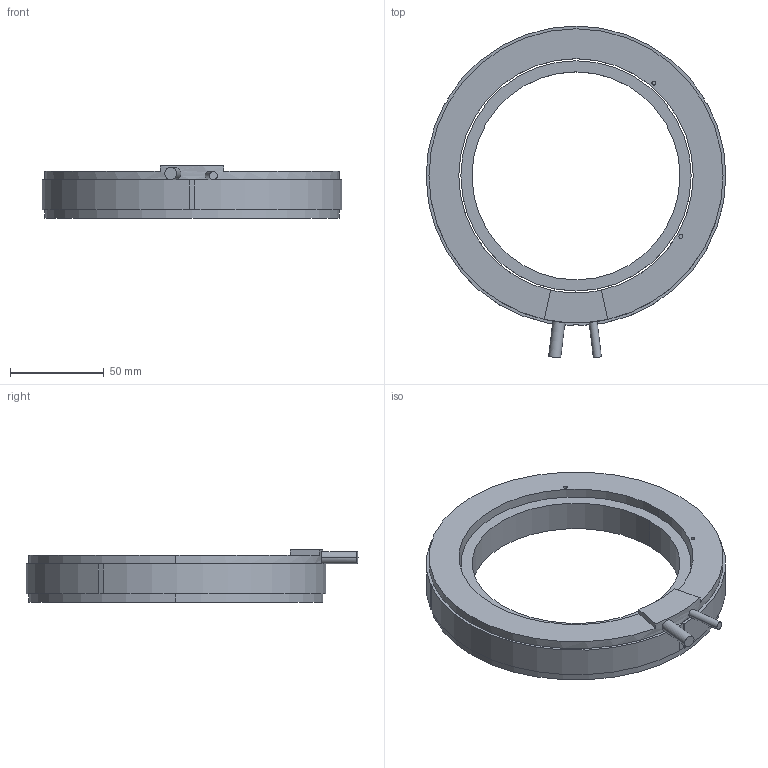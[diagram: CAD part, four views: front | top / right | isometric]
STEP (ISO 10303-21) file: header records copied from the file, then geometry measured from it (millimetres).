
FILE_DESCRIPTION (( 'STEP AP203' ), '1' );
FILE_NAME ('TM160-25 3D.STEP', '2024-01-12T03:02:09', ( '' ), ( '' ), 'SwSTEP 2.0', 'SolidWorks 2021', '' );
FILE_SCHEMA (( 'CONFIG_CONTROL_DESIGN' ));
Length unit declared in the file: millimetre
Products named in the file (1): TM160-25 3D
Bounding box: 160 x 177.21 x 28 mm (x, y, z)
Volume: 227228.9 mm3; surface area: 55495 mm2
Topology: 2 solids, 2 shells, 44 faces, 105 edges, 70 vertices
Faces by surface type: cylinder 22, plane 22
Entity records: 1492 total; most frequent: CARTESIAN_POINT 344, DIRECTION 235, ORIENTED_EDGE 210, EDGE_CURVE 105, AXIS2_PLACEMENT_3D 89, VERTEX_POINT 70, VECTOR 57, LINE 57
